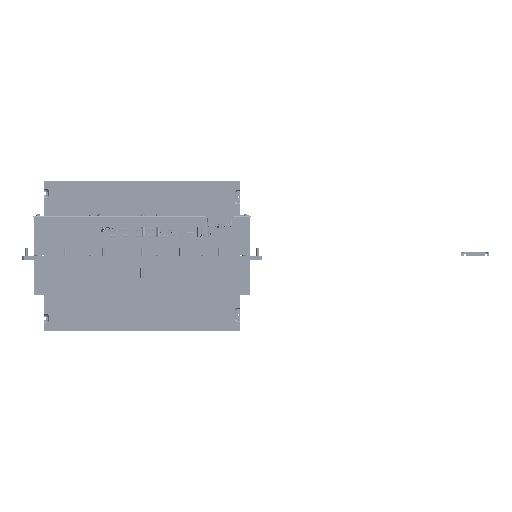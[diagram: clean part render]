
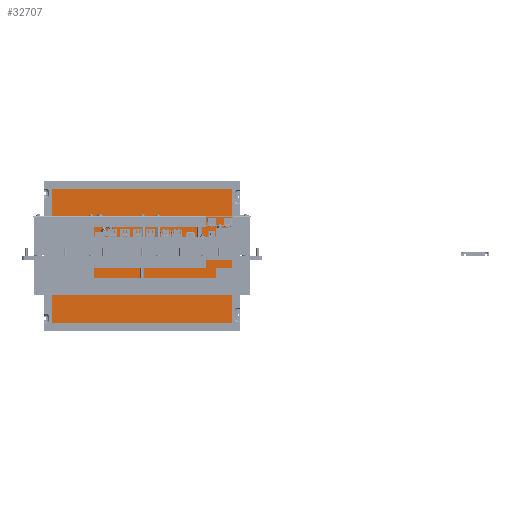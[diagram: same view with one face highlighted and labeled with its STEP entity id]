
A CAD part, front view. The second image highlights one B-rep face of the part: STEP entity #32707.
In plain terms, the highlighted planar face has unit normal (0, -1, 0).
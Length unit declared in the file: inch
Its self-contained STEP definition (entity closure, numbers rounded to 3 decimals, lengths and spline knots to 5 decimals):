
#32707 = ADVANCED_FACE( '', ( #73128 ), #73129, .T. );
#73128 = FACE_OUTER_BOUND( '', #122220, .T. );
#73129 = PLANE( '', #122221 );
#122220 = EDGE_LOOP( '', ( #229655, #229656, #229657, #229658 ) );
#122221 = AXIS2_PLACEMENT_3D( '', #229659, #229660, #229661 );
#229655 = ORIENTED_EDGE( '', *, *, #307686, .T. );
#229656 = ORIENTED_EDGE( '', *, *, #327320, .T. );
#229657 = ORIENTED_EDGE( '', *, *, #318496, .T. );
#229658 = ORIENTED_EDGE( '', *, *, #306863, .T. );
#229659 = CARTESIAN_POINT( '', ( -5.98677, 0.01181, -4.49126 ) );
#229660 = DIRECTION( '', ( 0., -1., 0. ) );
#229661 = DIRECTION( '', ( 0., 0., -1. ) );
#306863 = EDGE_CURVE( '', #376394, #376392, #376395, .T. );
#307686 = EDGE_CURVE( '', #376392, #377763, #377765, .T. );
#318496 = EDGE_CURVE( '', #394836, #376394, #394837, .T. );
#327320 = EDGE_CURVE( '', #377763, #394836, #407688, .T. );
#376392 = VERTEX_POINT( '', #477145 );
#376394 = VERTEX_POINT( '', #477148 );
#376395 = LINE( '', #477149, #477150 );
#377763 = VERTEX_POINT( '', #479196 );
#377765 = LINE( '', #479199, #479200 );
#394836 = VERTEX_POINT( '', #505490 );
#394837 = LINE( '', #505491, #505492 );
#407688 = LINE( '', #526019, #526020 );
#477145 = CARTESIAN_POINT( '', ( -5.98677, 0.01181, 4.4889 ) );
#477148 = CARTESIAN_POINT( '', ( 5.98677, 0.01181, 4.4889 ) );
#477149 = CARTESIAN_POINT( '', ( 5.98677, 0.01181, 4.4889 ) );
#477150 = VECTOR( '', #579476, 39.37008 );
#479196 = CARTESIAN_POINT( '', ( -5.98677, 0.01181, -4.49126 ) );
#479199 = CARTESIAN_POINT( '', ( -5.98677, 0.01181, 4.4889 ) );
#479200 = VECTOR( '', #580298, 39.37008 );
#505490 = CARTESIAN_POINT( '', ( 5.98677, 0.01181, -4.49126 ) );
#505491 = CARTESIAN_POINT( '', ( 5.98677, 0.01181, -4.49126 ) );
#505492 = VECTOR( '', #591311, 39.37008 );
#526019 = CARTESIAN_POINT( '', ( -5.98677, 0.01181, -4.49126 ) );
#526020 = VECTOR( '', #599785, 39.37008 );
#579476 = DIRECTION( '', ( -1., 0., 0. ) );
#580298 = DIRECTION( '', ( 0., 0., -1. ) );
#591311 = DIRECTION( '', ( 0., 0., 1. ) );
#599785 = DIRECTION( '', ( 1., 0., 0. ) );
